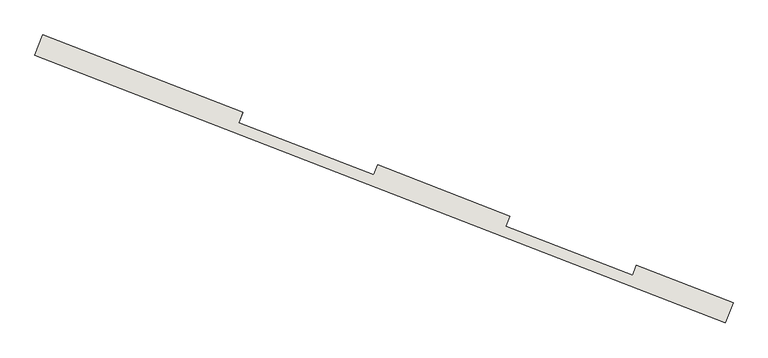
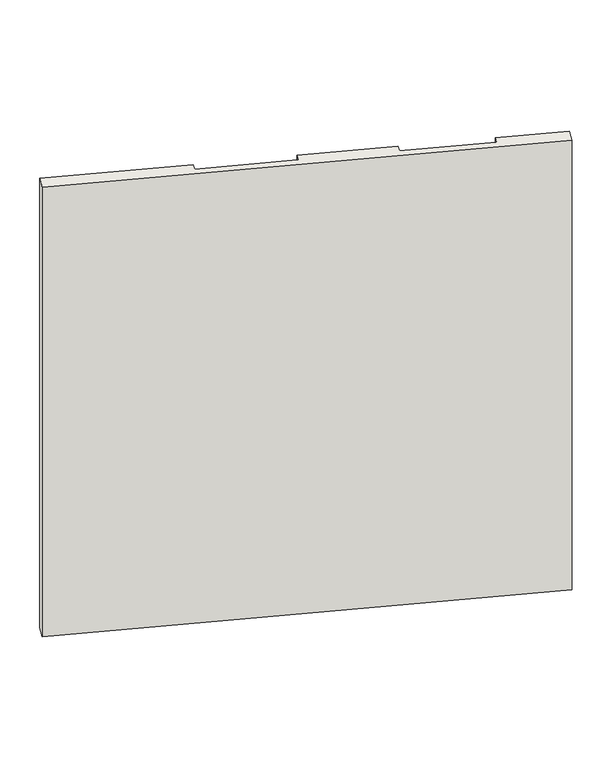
"""IFC4 building model written with IfcOpenShell, lengths in millimetres: wall geometry, kamposite7 : kamposite2."""

from ifc_helpers import new_model, si_unit, origin, place, context, project, spatial, faceted_brep, source, transform, mapped, element, save


def wall_89598529(model_context):
    return source(origin(), model_context, "Body", "Brep", [
        faceted_brep([(-250.3748169, 15163.2898207, 20000.0), (-250.3748169, 15163.2898207, 16500.0), (2938.093022, 13926.3286894, 16500.0), (2938.093022, 13926.3286894, 20000.0), (-214.2063627, 15256.5198745, 16500.0), (-214.2063627, 15256.5198745, 20000.0), (709.2620227, 14898.2617529, 20000.0), (709.2620227, 14898.2617529, 19220.5733633), (-211.8999426, 15255.6251024, 19220.5733633), (-211.8999426, 15255.6251024, 19170.5733633), (709.2620227, 14898.2617529, 19170.5733633), (709.2620227, 14898.2617529, 17461.5733633), (-211.8999426, 15255.6251024, 17461.5733633), (-211.8999426, 15255.6251024, 17411.5733633), (709.2620227, 14898.2617529, 17411.5733633), (709.2620227, 14898.2617529, 16500.0), (2974.2614761, 14019.5587432, 20000.0), (2974.2614761, 14019.5587432, 19220.5733633), (2528.06193, 14192.661162, 19220.5733633), (2528.06193, 14192.661162, 20000.0), (2974.2614761, 14019.5587432, 17411.5733633), (2974.2614761, 14019.5587432, 16500.0), (2528.06193, 14192.661162, 16500.0), (2528.06193, 14192.661162, 17411.5733633), (2974.2614761, 14019.5587432, 19170.5733633), (2974.2614761, 14019.5587432, 17461.5733633), (2528.06193, 14192.661162, 17461.5733633), (2528.06193, 14192.661162, 19170.5733633), (1333.1327149, 14656.2320897, 20000.0), (1942.8904543, 14419.6775245, 20000.0), (1942.8904543, 14419.6775245, 19220.5733633), (1333.1327149, 14656.2320897, 19220.5733633), (1333.1327149, 14656.2320897, 19170.5733633), (1942.8904543, 14419.6775245, 19170.5733633), (1942.8904543, 14419.6775245, 17461.5733633), (1333.1327149, 14656.2320897, 17461.5733633), (1333.1327149, 14656.2320897, 17411.5733633), (1942.8904543, 14419.6775245, 17411.5733633), (1942.8904543, 14419.6775245, 16500.0), (1333.1327149, 14656.2320897, 16500.0), (691.1777956, 14851.646726, 16500.0), (1315.0484878, 14609.6170628, 16500.0), (1924.8062272, 14373.0624976, 16500.0), (2509.977703, 14146.0461351, 16500.0), (2956.1772491, 13972.9437163, 17411.5733633), (2956.1772491, 13972.9437163, 17461.5733633), (2956.1772491, 13972.9437163, 19170.5733633), (2956.1772491, 13972.9437163, 19220.5733633), (2509.977703, 14146.0461351, 20000.0), (1924.8062272, 14373.0624976, 20000.0), (1315.0484878, 14609.6170628, 20000.0), (691.1777956, 14851.646726, 20000.0), (-229.9841696, 15209.0100755, 19170.5733633), (-229.9841696, 15209.0100755, 19220.5733633), (691.1777956, 14851.646726, 19220.5733633), (1315.0484878, 14609.6170628, 19220.5733633), (1924.8062272, 14373.0624976, 19220.5733633), (2509.977703, 14146.0461351, 19220.5733633), (2509.977703, 14146.0461351, 19170.5733633), (2509.977703, 14146.0461351, 17461.5733633), (2509.977703, 14146.0461351, 17411.5733633), (1924.8062272, 14373.0624976, 17411.5733633), (1315.0484878, 14609.6170628, 17411.5733633), (691.1777956, 14851.646726, 17411.5733633), (-229.9841696, 15209.0100755, 17411.5733633), (-229.9841696, 15209.0100755, 17461.5733633), (691.1777956, 14851.646726, 17461.5733633), (691.1777956, 14851.646726, 19170.5733633), (1924.8062272, 14373.0624976, 19170.5733633), (1315.0484878, 14609.6170628, 19170.5733633), (1315.0484878, 14609.6170628, 17461.5733633), (1924.8062272, 14373.0624976, 17461.5733633)], [[[0, 1, 2, 3]], [[4, 5, 6, 7, 8, 9, 10, 11, 12, 13, 14, 15]], [[16, 17, 18, 19]], [[20, 21, 22, 23]], [[24, 25, 26, 27]], [[28, 29, 30, 31]], [[32, 33, 34, 35]], [[36, 37, 38, 39]], [[1, 0, 5, 4]], [[2, 1, 4, 15, 40, 41, 39, 38, 42, 43, 22, 21]], [[3, 2, 21, 20, 44, 45, 25, 24, 46, 47, 17, 16]], [[0, 3, 16, 19, 48, 49, 29, 28, 50, 51, 6, 5]], [[52, 53, 54, 51, 50, 55, 56, 49, 48, 57, 47, 46, 58, 59, 45, 44, 60, 43, 42, 61, 62, 41, 40, 63, 64, 65, 66, 67], [68, 69, 70, 71]], [[53, 52, 9, 8]], [[33, 32, 69, 68]], [[46, 24, 27, 58]], [[9, 52, 67, 10]], [[31, 30, 56, 55]], [[17, 47, 57, 18]], [[53, 8, 7, 54]], [[65, 64, 13, 12]], [[37, 36, 62, 61]], [[44, 20, 23, 60]], [[13, 64, 63, 14]], [[35, 34, 71, 70]], [[25, 45, 59, 26]], [[65, 12, 11, 66]], [[49, 56, 30, 29]], [[61, 42, 38, 37]], [[68, 71, 34, 33]], [[57, 48, 19, 18]], [[59, 58, 27, 26]], [[43, 60, 23, 22]], [[51, 54, 7, 6]], [[63, 40, 15, 14]], [[67, 66, 11, 10]], [[55, 50, 28, 31]], [[41, 62, 36, 39]], [[70, 69, 32, 35]]]),
    ])


if __name__ == "__main__":
    model = new_model("IFC4")
    model_context = context("Model", 3, world=origin())
    ifc_project = project(units=[si_unit("LENGTHUNIT", "METRE", prefix="MILLI")], contexts=[model_context])
    site = spatial("IfcSite", under=ifc_project)
    building = spatial("IfcBuilding", under=site)
    placement = place(None, origin())
    wall_shape = wall_89598529(model_context)
    element("IfcWall", 1, ObjectType="kamposite7 : kamposite2", at=placement, inside=building, context=model_context, shape_type="MappedRepresentation", body=[
        mapped(wall_shape, transform((0.0, 0.0, 0.0), x_axis=(1.0, 0.0, 0.0), y_axis=(0.0, 1.0, 0.0), z_axis=(0.0, 0.0, 1.0))),
    ])
    save(model, "model.ifc")
